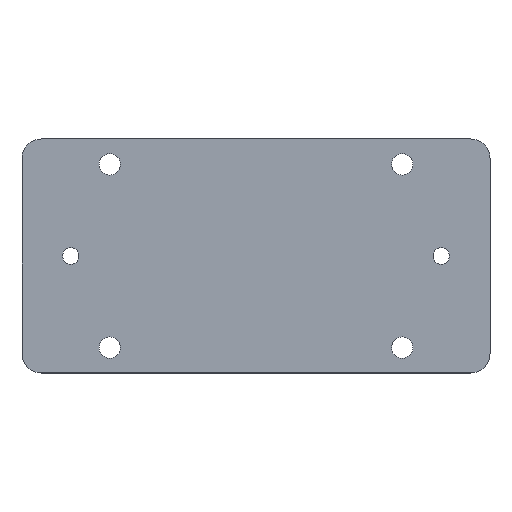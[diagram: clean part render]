
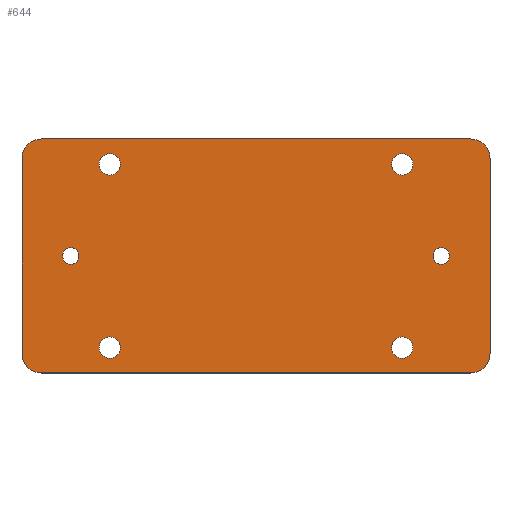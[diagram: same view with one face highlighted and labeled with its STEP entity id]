
A CAD part, top view. The second image highlights one B-rep face of the part: STEP entity #644.
In plain terms, the highlighted planar face has unit normal (0, 0, 1).
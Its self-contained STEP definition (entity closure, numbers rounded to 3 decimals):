
#55=AXIS2_PLACEMENT_3D('Circle Axis2P3D',#53,#54,$) ;
#79=AXIS2_PLACEMENT_3D('Circle Axis2P3D',#77,#78,$) ;
#112=AXIS2_PLACEMENT_3D('Circle Axis2P3D',#110,#111,$) ;
#136=AXIS2_PLACEMENT_3D('Circle Axis2P3D',#134,#135,$) ;
#169=AXIS2_PLACEMENT_3D('Circle Axis2P3D',#167,#168,$) ;
#193=AXIS2_PLACEMENT_3D('Circle Axis2P3D',#191,#192,$) ;
#226=AXIS2_PLACEMENT_3D('Circle Axis2P3D',#224,#225,$) ;
#250=AXIS2_PLACEMENT_3D('Circle Axis2P3D',#248,#249,$) ;
#283=AXIS2_PLACEMENT_3D('Circle Axis2P3D',#281,#282,$) ;
#307=AXIS2_PLACEMENT_3D('Circle Axis2P3D',#305,#306,$) ;
#340=AXIS2_PLACEMENT_3D('Circle Axis2P3D',#338,#339,$) ;
#364=AXIS2_PLACEMENT_3D('Circle Axis2P3D',#362,#363,$) ;
#381=AXIS2_PLACEMENT_3D('Circle Axis2P3D',#379,#380,$) ;
#452=AXIS2_PLACEMENT_3D('Circle Axis2P3D',#450,#451,$) ;
#514=AXIS2_PLACEMENT_3D('Circle Axis2P3D',#512,#513,$) ;
#603=AXIS2_PLACEMENT_3D('Plane Axis2P3D',#600,#601,#602) ;
#607=AXIS2_PLACEMENT_3D('Circle Axis2P3D',#605,#606,$) ;
#50=CARTESIAN_POINT('Vertex',(19.75,-6.5,11.)) ;
#53=CARTESIAN_POINT('Axis2P3D Location',(22.5,-6.5,11.)) ;
#57=CARTESIAN_POINT('Vertex',(25.25,-6.5,11.)) ;
#77=CARTESIAN_POINT('Axis2P3D Location',(22.5,-6.5,11.)) ;
#107=CARTESIAN_POINT('Vertex',(94.75,-53.5,11.)) ;
#110=CARTESIAN_POINT('Axis2P3D Location',(97.5,-53.5,11.)) ;
#114=CARTESIAN_POINT('Vertex',(100.25,-53.5,11.)) ;
#134=CARTESIAN_POINT('Axis2P3D Location',(97.5,-53.5,11.)) ;
#164=CARTESIAN_POINT('Vertex',(94.75,-6.5,11.)) ;
#167=CARTESIAN_POINT('Axis2P3D Location',(97.5,-6.5,11.)) ;
#171=CARTESIAN_POINT('Vertex',(100.25,-6.5,11.)) ;
#191=CARTESIAN_POINT('Axis2P3D Location',(97.5,-6.5,11.)) ;
#221=CARTESIAN_POINT('Vertex',(19.75,-53.5,11.)) ;
#224=CARTESIAN_POINT('Axis2P3D Location',(22.5,-53.5,11.)) ;
#228=CARTESIAN_POINT('Vertex',(25.25,-53.5,11.)) ;
#248=CARTESIAN_POINT('Axis2P3D Location',(22.5,-53.5,11.)) ;
#278=CARTESIAN_POINT('Vertex',(105.4,-30.,11.)) ;
#281=CARTESIAN_POINT('Axis2P3D Location',(107.5,-30.,11.)) ;
#285=CARTESIAN_POINT('Vertex',(109.6,-30.,11.)) ;
#305=CARTESIAN_POINT('Axis2P3D Location',(107.5,-30.,11.)) ;
#335=CARTESIAN_POINT('Vertex',(10.4,-30.,11.)) ;
#338=CARTESIAN_POINT('Axis2P3D Location',(12.5,-30.,11.)) ;
#342=CARTESIAN_POINT('Vertex',(14.6,-30.,11.)) ;
#362=CARTESIAN_POINT('Axis2P3D Location',(12.5,-30.,11.)) ;
#379=CARTESIAN_POINT('Axis2P3D Location',(115.,-55.,11.)) ;
#383=CARTESIAN_POINT('Vertex',(120.,-55.,11.)) ;
#385=CARTESIAN_POINT('Vertex',(115.,-60.,11.)) ;
#419=CARTESIAN_POINT('Line Origine',(120.,-30.,11.)) ;
#423=CARTESIAN_POINT('Vertex',(120.,-5.,11.)) ;
#450=CARTESIAN_POINT('Axis2P3D Location',(115.,-5.,11.)) ;
#454=CARTESIAN_POINT('Vertex',(115.,0.,11.)) ;
#487=CARTESIAN_POINT('Vertex',(5.,0.,11.)) ;
#490=CARTESIAN_POINT('Line Origine',(60.,0.,11.)) ;
#512=CARTESIAN_POINT('Axis2P3D Location',(5.,-5.,11.)) ;
#516=CARTESIAN_POINT('Vertex',(0.,-5.,11.)) ;
#549=CARTESIAN_POINT('Vertex',(5.,-60.,11.)) ;
#557=CARTESIAN_POINT('Line Origine',(60.,-60.,11.)) ;
#574=CARTESIAN_POINT('Line Origine',(0.,-30.,11.)) ;
#578=CARTESIAN_POINT('Vertex',(0.,-55.,11.)) ;
#600=CARTESIAN_POINT('Axis2P3D Location',(0.,0.,11.)) ;
#605=CARTESIAN_POINT('Axis2P3D Location',(5.,-55.,11.)) ;
#54=DIRECTION('Axis2P3D Direction',(0.,0.,1.)) ;
#78=DIRECTION('Axis2P3D Direction',(0.,0.,1.)) ;
#111=DIRECTION('Axis2P3D Direction',(0.,0.,1.)) ;
#135=DIRECTION('Axis2P3D Direction',(0.,0.,1.)) ;
#168=DIRECTION('Axis2P3D Direction',(0.,0.,1.)) ;
#192=DIRECTION('Axis2P3D Direction',(0.,0.,1.)) ;
#225=DIRECTION('Axis2P3D Direction',(0.,0.,1.)) ;
#249=DIRECTION('Axis2P3D Direction',(0.,0.,1.)) ;
#282=DIRECTION('Axis2P3D Direction',(0.,0.,1.)) ;
#306=DIRECTION('Axis2P3D Direction',(0.,0.,1.)) ;
#339=DIRECTION('Axis2P3D Direction',(0.,0.,1.)) ;
#363=DIRECTION('Axis2P3D Direction',(0.,0.,1.)) ;
#380=DIRECTION('Axis2P3D Direction',(0.,0.,1.)) ;
#420=DIRECTION('Vector Direction',(0.,1.,0.)) ;
#451=DIRECTION('Axis2P3D Direction',(0.,-0.,1.)) ;
#491=DIRECTION('Vector Direction',(1.,0.,0.)) ;
#513=DIRECTION('Axis2P3D Direction',(0.,0.,1.)) ;
#558=DIRECTION('Vector Direction',(-1.,0.,0.)) ;
#575=DIRECTION('Vector Direction',(0.,-1.,0.)) ;
#601=DIRECTION('Axis2P3D Direction',(0.,0.,1.)) ;
#602=DIRECTION('Axis2P3D XDirection',(1.,0.,0.)) ;
#606=DIRECTION('Axis2P3D Direction',(0.,0.,1.)) ;
#421=VECTOR('Line Direction',#420,1.) ;
#492=VECTOR('Line Direction',#491,1.) ;
#559=VECTOR('Line Direction',#558,1.) ;
#576=VECTOR('Line Direction',#575,1.) ;
#611=ORIENTED_EDGE('',*,*,#561,.T.) ;
#612=ORIENTED_EDGE('',*,*,#387,.F.) ;
#613=ORIENTED_EDGE('',*,*,#425,.T.) ;
#614=ORIENTED_EDGE('',*,*,#456,.F.) ;
#615=ORIENTED_EDGE('',*,*,#494,.T.) ;
#616=ORIENTED_EDGE('',*,*,#518,.F.) ;
#617=ORIENTED_EDGE('',*,*,#580,.T.) ;
#618=ORIENTED_EDGE('',*,*,#609,.F.) ;
#621=ORIENTED_EDGE('',*,*,#366,.F.) ;
#622=ORIENTED_EDGE('',*,*,#344,.F.) ;
#625=ORIENTED_EDGE('',*,*,#309,.F.) ;
#626=ORIENTED_EDGE('',*,*,#287,.F.) ;
#629=ORIENTED_EDGE('',*,*,#81,.F.) ;
#630=ORIENTED_EDGE('',*,*,#59,.F.) ;
#633=ORIENTED_EDGE('',*,*,#252,.F.) ;
#634=ORIENTED_EDGE('',*,*,#230,.F.) ;
#637=ORIENTED_EDGE('',*,*,#195,.F.) ;
#638=ORIENTED_EDGE('',*,*,#173,.F.) ;
#641=ORIENTED_EDGE('',*,*,#138,.F.) ;
#642=ORIENTED_EDGE('',*,*,#116,.F.) ;
#623=FACE_BOUND('',#620,.T.) ;
#627=FACE_BOUND('',#624,.T.) ;
#631=FACE_BOUND('',#628,.T.) ;
#635=FACE_BOUND('',#632,.T.) ;
#639=FACE_BOUND('',#636,.T.) ;
#643=FACE_BOUND('',#640,.T.) ;
#644=ADVANCED_FACE('\X2\96F64EF651E04F554F53\X0\',(#619,#623,#627,#631,#635,#639,#643),#604,.T.) ;
#56=CIRCLE('generated circle',#55,2.75) ;
#80=CIRCLE('generated circle',#79,2.75) ;
#113=CIRCLE('generated circle',#112,2.75) ;
#137=CIRCLE('generated circle',#136,2.75) ;
#170=CIRCLE('generated circle',#169,2.75) ;
#194=CIRCLE('generated circle',#193,2.75) ;
#227=CIRCLE('generated circle',#226,2.75) ;
#251=CIRCLE('generated circle',#250,2.75) ;
#284=CIRCLE('generated circle',#283,2.1) ;
#308=CIRCLE('generated circle',#307,2.1) ;
#341=CIRCLE('generated circle',#340,2.1) ;
#365=CIRCLE('generated circle',#364,2.1) ;
#382=CIRCLE('generated circle',#381,5.) ;
#453=CIRCLE('generated circle',#452,5.) ;
#515=CIRCLE('generated circle',#514,5.) ;
#608=CIRCLE('generated circle',#607,5.) ;
#59=EDGE_CURVE('',#51,#58,#56,.T.) ;
#81=EDGE_CURVE('',#58,#51,#80,.T.) ;
#116=EDGE_CURVE('',#108,#115,#113,.T.) ;
#138=EDGE_CURVE('',#115,#108,#137,.T.) ;
#173=EDGE_CURVE('',#165,#172,#170,.T.) ;
#195=EDGE_CURVE('',#172,#165,#194,.T.) ;
#230=EDGE_CURVE('',#222,#229,#227,.T.) ;
#252=EDGE_CURVE('',#229,#222,#251,.T.) ;
#287=EDGE_CURVE('',#279,#286,#284,.T.) ;
#309=EDGE_CURVE('',#286,#279,#308,.T.) ;
#344=EDGE_CURVE('',#336,#343,#341,.T.) ;
#366=EDGE_CURVE('',#343,#336,#365,.T.) ;
#387=EDGE_CURVE('',#384,#386,#382,.F.) ;
#425=EDGE_CURVE('',#384,#424,#422,.T.) ;
#456=EDGE_CURVE('',#455,#424,#453,.F.) ;
#494=EDGE_CURVE('',#455,#488,#493,.F.) ;
#518=EDGE_CURVE('',#517,#488,#515,.F.) ;
#561=EDGE_CURVE('',#550,#386,#560,.F.) ;
#580=EDGE_CURVE('',#517,#579,#577,.T.) ;
#609=EDGE_CURVE('',#550,#579,#608,.F.) ;
#610=EDGE_LOOP('',(#611,#612,#613,#614,#615,#616,#617,#618)) ;
#620=EDGE_LOOP('',(#621,#622)) ;
#624=EDGE_LOOP('',(#625,#626)) ;
#628=EDGE_LOOP('',(#629,#630)) ;
#632=EDGE_LOOP('',(#633,#634)) ;
#636=EDGE_LOOP('',(#637,#638)) ;
#640=EDGE_LOOP('',(#641,#642)) ;
#619=FACE_OUTER_BOUND('',#610,.T.) ;
#422=LINE('Line',#419,#421) ;
#493=LINE('Line',#490,#492) ;
#560=LINE('Line',#557,#559) ;
#577=LINE('Line',#574,#576) ;
#604=PLANE('',#603) ;
#51=VERTEX_POINT('',#50) ;
#58=VERTEX_POINT('',#57) ;
#108=VERTEX_POINT('',#107) ;
#115=VERTEX_POINT('',#114) ;
#165=VERTEX_POINT('',#164) ;
#172=VERTEX_POINT('',#171) ;
#222=VERTEX_POINT('',#221) ;
#229=VERTEX_POINT('',#228) ;
#279=VERTEX_POINT('',#278) ;
#286=VERTEX_POINT('',#285) ;
#336=VERTEX_POINT('',#335) ;
#343=VERTEX_POINT('',#342) ;
#384=VERTEX_POINT('',#383) ;
#386=VERTEX_POINT('',#385) ;
#424=VERTEX_POINT('',#423) ;
#455=VERTEX_POINT('',#454) ;
#488=VERTEX_POINT('',#487) ;
#517=VERTEX_POINT('',#516) ;
#550=VERTEX_POINT('',#549) ;
#579=VERTEX_POINT('',#578) ;
